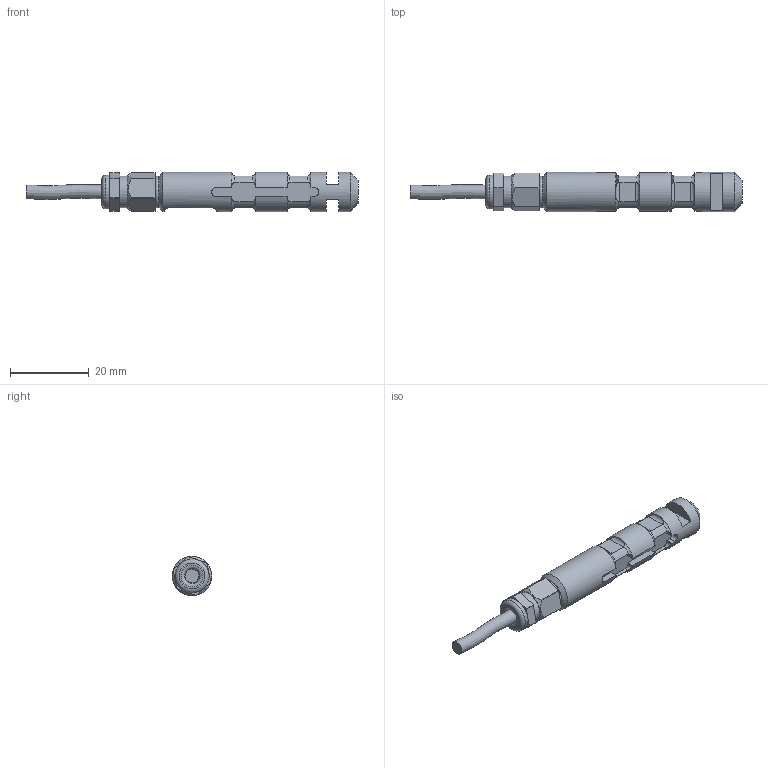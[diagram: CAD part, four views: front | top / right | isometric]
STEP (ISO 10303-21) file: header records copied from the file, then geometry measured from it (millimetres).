
FILE_DESCRIPTION(/* description */ ('Alibre Inc.'),/* implementation_level */ '2;1');
FILE_NAME(/* name */ 'export0',/* time_stamp */ '2015-08-19T11:23:46+02:00',/* author */ (''),/* organization */ (''),/* preprocessor_version */ 'ST-DEVELOPER v14',/* originating_system */ 'Alibre',/* authorisation */ '');
FILE_SCHEMA (('CONFIG_CONTROL_DESIGN'));
Length unit declared in the file: centimetre
Products named in the file (6): ID_1; ID_2; ID_3
Bounding box: 84.23 x 10 x 10 mm (x, y, z)
Volume: 4106 mm3; surface area: 3152.1 mm2
Topology: 4 solids, 4 shells, 170 faces, 442 edges, 284 vertices
Faces by surface type: plane 80, cylinder 65, torus 19, cone 5, bspline 1
Full cylindrical faces by diameter (mm): 3.5 x1, 4.917 x1, 6 x1, 8 x1, 8.6 x1, 10 x2
Entity records: 9947 total; most frequent: CARTESIAN_POINT 5841, ORIENTED_EDGE 836, DIRECTION 549, EDGE_CURVE 418, VERTEX_POINT 278, AXIS2_PLACEMENT_3D 213, FACE_BOUND 194, EDGE_LOOP 193
